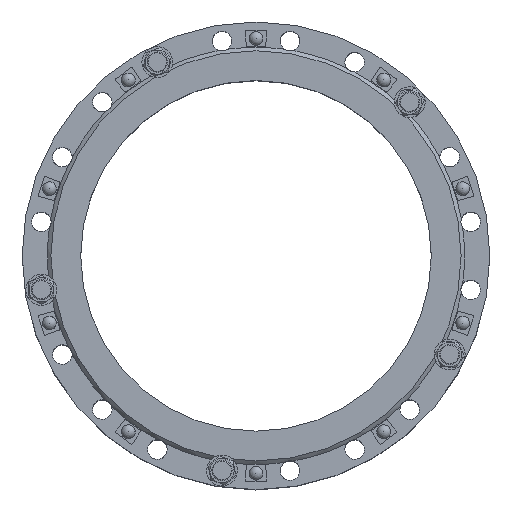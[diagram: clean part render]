
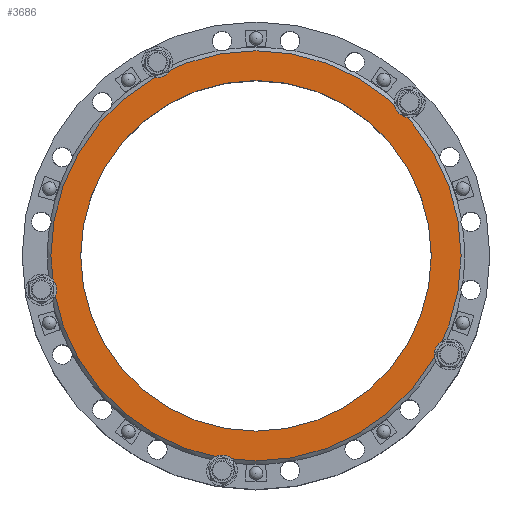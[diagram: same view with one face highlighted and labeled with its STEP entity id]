
A CAD part, top view. The second image highlights one B-rep face of the part: STEP entity #3686.
In plain terms, the highlighted planar face has unit normal (0, 0, 1) as drawn and (0, 0, -1) by its records, which use the part's own axes.
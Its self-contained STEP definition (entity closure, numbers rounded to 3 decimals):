
#3686=ADVANCED_FACE('',(#5786,#5788),#5790,.F.);
#5786=FACE_BOUND('',#5787,.T.);
#5787=EDGE_LOOP('',(#8443));
#5788=FACE_BOUND('',#5789,.T.);
#5789=EDGE_LOOP('',(#8444));
#5790=PLANE('',#5791);
#5791=AXIS2_PLACEMENT_3D('',#5792,#5793,#5794);
#5792=CARTESIAN_POINT('',(0.,0.,0.));
#5793=DIRECTION('',(0.,0.,1.));
#5794=DIRECTION('',(-1.,0.,0.));
#8443=ORIENTED_EDGE('',*,*,#9497,.F.);
#8444=ORIENTED_EDGE('',*,*,#9659,.T.);
#9497=EDGE_CURVE('',#10887,#10887,#10888,.T.);
#9659=EDGE_CURVE('',#11131,#11131,#11132,.T.);
#10887=VERTEX_POINT('',#19778);
#10888=CIRCLE('',#19779,292.5);
#11131=VERTEX_POINT('',#20388);
#11132=CIRCLE('',#20389,250.);
#19778=CARTESIAN_POINT('',(-292.5,0.,0.));
#19779=AXIS2_PLACEMENT_3D('',#19780,#19781,#19782);
#19780=CARTESIAN_POINT('',(0.,0.,0.));
#19781=DIRECTION('',(0.,0.,1.));
#19782=DIRECTION('',(-1.,0.,0.));
#20388=CARTESIAN_POINT('',(-250.,0.,0.));
#20389=AXIS2_PLACEMENT_3D('',#20390,#20391,#20392);
#20390=CARTESIAN_POINT('',(0.,0.,0.));
#20391=DIRECTION('',(0.,0.,1.));
#20392=DIRECTION('',(-1.,0.,0.));
